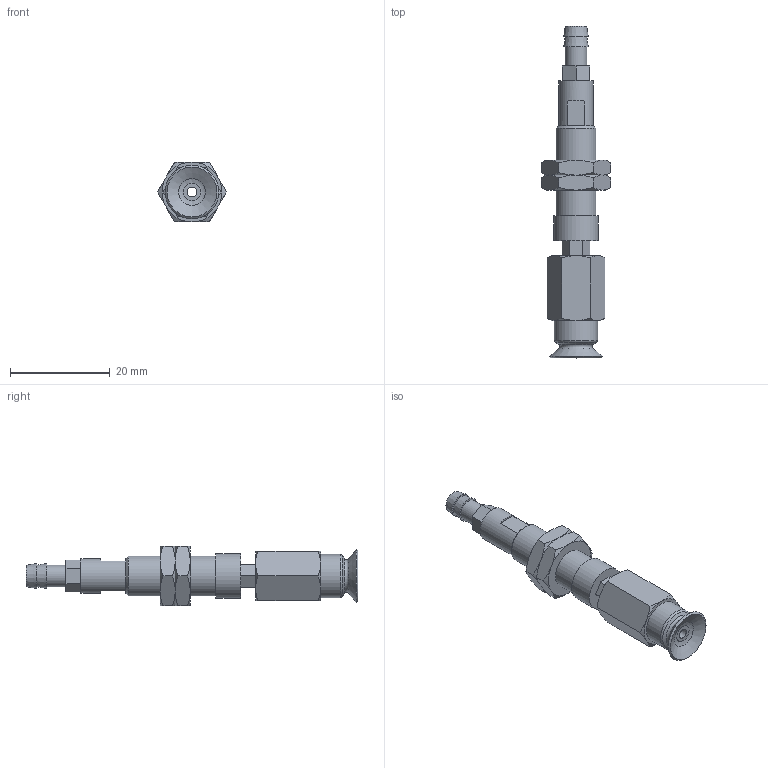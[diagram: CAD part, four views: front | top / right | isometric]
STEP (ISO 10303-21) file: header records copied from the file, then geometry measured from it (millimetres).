
FILE_DESCRIPTION(('STEP AP203'),'1');
FILE_NAME('-T.stp','2025-08-27T03:08:24',(' '),(' '),'Spatial InterOp 3D',' ',' ');
FILE_SCHEMA(('CONFIG_CONTROL_DESIGN'));
Length unit declared in the file: millimetre
Products named in the file (7): BNABPFTH-10A-3-※-T; ADAPTER; NAPATH-10A-3--M; Nut-10A-3-h; NAPFTH-10A-3-FBODY; BPFG-10A-※; T
Assembly tree (7 placements, depth 2):
  BNABPFTH-10A-3-※-T
    ADAPTER
    NAPATH-10A-3--M
    Nut-10A-3-h  x2
    NAPFTH-10A-3-FBODY
    BPFG-10A-※
    T
Bounding box: 13.86 x 66.5 x 12 mm (x, y, z)
Volume: 3553.1 mm3; surface area: 4374.4 mm2
Topology: 7 solids, 7 shells, 141 faces, 299 edges, 184 vertices
Faces by surface type: plane 66, cone 49, cylinder 17, torus 8, bspline 1
Full cylindrical faces by diameter (mm): 2 x3, 3 x1, 4 x2, 4.134 x1, 4.3 x1, 5 x1, 6 x2, 7 x1, 7.188 x2, 8 x1, 8.7 x1, 9 x1
Entity records: 3485 total; most frequent: CARTESIAN_POINT 795, DIRECTION 490, ORIENTED_EDGE 412, AXIS2_PLACEMENT_3D 207, EDGE_CURVE 206, EDGE_LOOP 178, VERTEX_POINT 148, FACE_OUTER_BOUND 143
